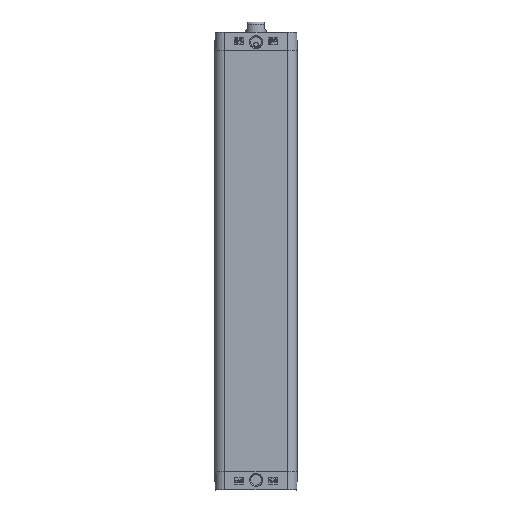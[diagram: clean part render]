
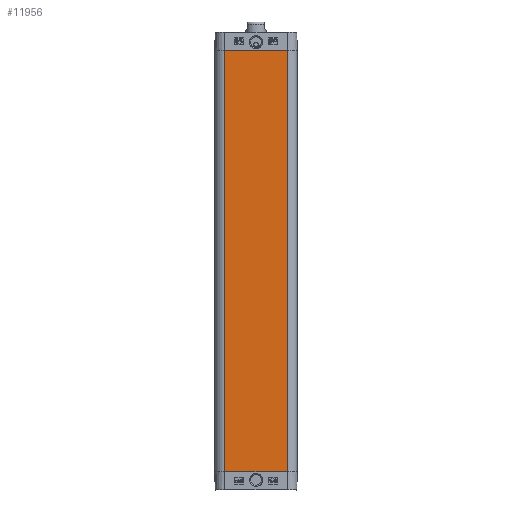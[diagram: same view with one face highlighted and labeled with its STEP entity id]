
A CAD part, left-side view. The second image highlights one B-rep face of the part: STEP entity #11956.
In plain terms, the highlighted planar face has unit normal (-1, 0, 0).
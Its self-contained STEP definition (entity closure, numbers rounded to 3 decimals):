
#1225=ORIENTED_EDGE('',*,*,#4772,.T.);
#1226=ORIENTED_EDGE('',*,*,#4771,.F.);
#1227=ORIENTED_EDGE('',*,*,#4773,.T.);
#1228=ORIENTED_EDGE('',*,*,#4774,.T.);
#4771=EDGE_CURVE('',#6544,#6543,#7759,.T.);
#4772=EDGE_CURVE('',#6545,#6543,#7760,.T.);
#4773=EDGE_CURVE('',#6544,#6546,#7761,.T.);
#4774=EDGE_CURVE('',#6546,#6545,#7762,.T.);
#6543=VERTEX_POINT('',#21604);
#6544=VERTEX_POINT('',#21606);
#6545=VERTEX_POINT('',#21610);
#6546=VERTEX_POINT('',#21612);
#7759=LINE('',#21607,#8775);
#7760=LINE('',#21609,#8776);
#7761=LINE('',#21611,#8777);
#7762=LINE('',#21613,#8778);
#8775=VECTOR('',#18331,1000.);
#8776=VECTOR('',#18334,1000.);
#8777=VECTOR('',#18335,1000.);
#8778=VECTOR('',#18336,1000.);
#9784=EDGE_LOOP('',(#1225,#1226,#1227,#1228));
#10702=FACE_BOUND('',#9784,.T.);
#11617=PLANE('',#17180);
#11956=ADVANCED_FACE('',(#10702),#11617,.T.);
#17180=AXIS2_PLACEMENT_3D('',#21608,#18332,#18333);
#18331=DIRECTION('',(0.,0.,1.));
#18332=DIRECTION('',(-1.,0.,0.));
#18333=DIRECTION('',(0.,0.,1.));
#18334=DIRECTION('',(0.,1.,0.));
#18335=DIRECTION('',(0.,-1.,0.));
#18336=DIRECTION('',(0.,0.,1.));
#21604=CARTESIAN_POINT('',(-32.75,24.75,336.));
#21606=CARTESIAN_POINT('',(-32.75,24.75,0.));
#21607=CARTESIAN_POINT('',(-32.75,24.75,0.));
#21608=CARTESIAN_POINT('',(-32.75,-24.75,0.));
#21609=CARTESIAN_POINT('',(-32.75,-24.75,336.));
#21610=CARTESIAN_POINT('',(-32.75,-24.75,336.));
#21611=CARTESIAN_POINT('',(-32.75,24.75,0.));
#21612=CARTESIAN_POINT('',(-32.75,-24.75,0.));
#21613=CARTESIAN_POINT('',(-32.75,-24.75,0.));
